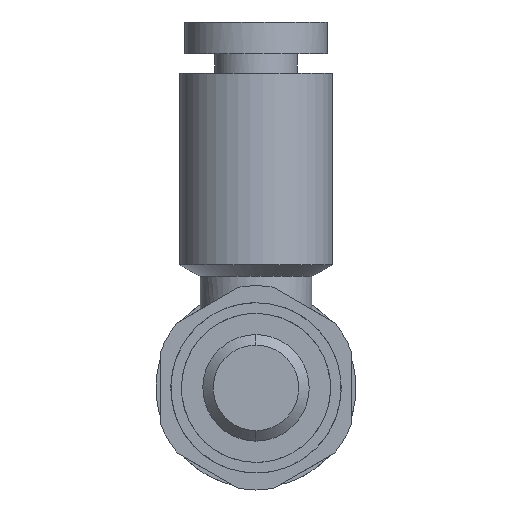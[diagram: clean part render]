
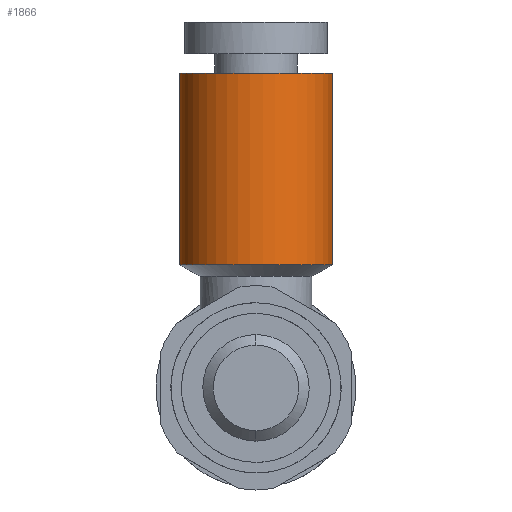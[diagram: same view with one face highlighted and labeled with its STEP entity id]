
A CAD part, front view. The second image highlights one B-rep face of the part: STEP entity #1866.
In plain terms, the highlighted free-form (B-spline) face has degree [1, 3] with [2, 4] control points.
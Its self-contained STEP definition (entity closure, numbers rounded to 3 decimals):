
#99 = ORIENTED_EDGE ( 'NONE', *, *, #775, .T. ) ;
#109 = CARTESIAN_POINT ( 'NONE',  ( -3.6, 6.7, 5.8 ) ) ;
#208 = VERTEX_POINT ( 'NONE', #2135 ) ;
#214 = CARTESIAN_POINT ( 'NONE',  ( -3.6, 13.9, 14.8 ) ) ;
#263 = CARTESIAN_POINT ( 'NONE',  ( 3.6, 6.7, 14.8 ) ) ;
#310 = CARTESIAN_POINT ( 'NONE',  ( -3.6, 13.9, 5.8 ) ) ;
#333 = VERTEX_POINT ( 'NONE', #310 ) ;
#430 = CARTESIAN_POINT ( 'NONE',  ( -3.6, 13.9, 5.8 ) ) ;
#486 = EDGE_CURVE ( 'NONE', #208, #333, #1293, .T. ) ;
#535 = CARTESIAN_POINT ( 'NONE',  ( -3.6, 13.9, 14.8 ) ) ;
#544 = EDGE_CURVE ( 'NONE', #1424, #2267, #1197, .T. ) ;
#688 = CARTESIAN_POINT ( 'NONE',  ( 3.6, 13.9, 5.8 ) ) ;
#775 = EDGE_CURVE ( 'NONE', #208, #1424, #1127, .T. ) ;
#798 = ORIENTED_EDGE ( 'NONE', *, *, #813, .F. ) ;
#813 = EDGE_CURVE ( 'NONE', #333, #2267, #1828, .T. ) ;
#818 = CARTESIAN_POINT ( 'NONE',  ( 3.6, 13.9, 5.8 ) ) ;
#860 = ORIENTED_EDGE ( 'NONE', *, *, #544, .T. ) ;
#869 = CARTESIAN_POINT ( 'NONE',  ( 3.6, 13.9, 14.8 ) ) ;
#881 = CARTESIAN_POINT ( 'NONE',  ( -3.6, 6.7, 14.8 ) ) ;
#888 = ORIENTED_EDGE ( 'NONE', *, *, #486, .F. ) ;
#917 = CARTESIAN_POINT ( 'NONE',  ( 3.6, 13.9, 14.8 ) ) ;
#1127 = B_SPLINE_CURVE_WITH_KNOTS ( 'NONE', 1,
 ( #2071, #869 ),
 .UNSPECIFIED., .F., .F.,
 ( 2, 2 ),
 ( 0., 1. ),
 .UNSPECIFIED. ) ;
#1197 =( BOUNDED_CURVE ( )  B_SPLINE_CURVE ( 3, ( #2472, #263, #881, #1290 ),
 .UNSPECIFIED., .F., .F. ) 
 B_SPLINE_CURVE_WITH_KNOTS ( ( 4, 4 ),
 ( 0.5, 1. ),
 .UNSPECIFIED. ) 
 CURVE ( )  GEOMETRIC_REPRESENTATION_ITEM ( )  RATIONAL_B_SPLINE_CURVE ( ( 1., 0.333, 0.333, 1. ) ) 
 REPRESENTATION_ITEM ( '' )  );
#1254 = EDGE_LOOP ( 'NONE', ( #888, #99, #860, #798 ) ) ;
#1290 = CARTESIAN_POINT ( 'NONE',  ( -3.6, 13.9, 14.8 ) ) ;
#1293 =( BOUNDED_CURVE ( )  B_SPLINE_CURVE ( 3, ( #818, #2424, #2226, #2036 ),
 .UNSPECIFIED., .F., .F. ) 
 B_SPLINE_CURVE_WITH_KNOTS ( ( 4, 4 ),
 ( 0., 1. ),
 .UNSPECIFIED. ) 
 CURVE ( )  GEOMETRIC_REPRESENTATION_ITEM ( )  RATIONAL_B_SPLINE_CURVE ( ( 1., 0.333, 0.333, 1. ) ) 
 REPRESENTATION_ITEM ( '' )  );
#1424 = VERTEX_POINT ( 'NONE', #2400 ) ;
#1828 = B_SPLINE_CURVE_WITH_KNOTS ( 'NONE', 1,
 ( #430, #214 ),
 .UNSPECIFIED., .F., .F.,
 ( 2, 2 ),
 ( 0., 1. ),
 .UNSPECIFIED. ) ;
#1866 = ADVANCED_FACE ( 'NONE', ( #2331 ), #2448, .T. ) ;
#1894 = CARTESIAN_POINT ( 'NONE',  ( 3.6, 6.7, 14.8 ) ) ;
#1906 = CARTESIAN_POINT ( 'NONE',  ( 3.6, 6.7, 5.8 ) ) ;
#2036 = CARTESIAN_POINT ( 'NONE',  ( -3.6, 13.9, 5.8 ) ) ;
#2071 = CARTESIAN_POINT ( 'NONE',  ( 3.6, 13.9, 5.8 ) ) ;
#2135 = CARTESIAN_POINT ( 'NONE',  ( 3.6, 13.9, 5.8 ) ) ;
#2226 = CARTESIAN_POINT ( 'NONE',  ( -3.6, 6.7, 5.8 ) ) ;
#2267 = VERTEX_POINT ( 'NONE', #2312 ) ;
#2279 = CARTESIAN_POINT ( 'NONE',  ( -3.6, 13.9, 5.8 ) ) ;
#2312 = CARTESIAN_POINT ( 'NONE',  ( -3.6, 13.9, 14.8 ) ) ;
#2331 = FACE_OUTER_BOUND ( 'NONE', #1254, .T. ) ;
#2400 = CARTESIAN_POINT ( 'NONE',  ( 3.6, 13.9, 14.8 ) ) ;
#2424 = CARTESIAN_POINT ( 'NONE',  ( 3.6, 6.7, 5.8 ) ) ;
#2448 =( BOUNDED_SURFACE ( )  B_SPLINE_SURFACE ( 1, 3, ( 
 ( #688, #1906, #109, #2279 ),
 ( #917, #1894, #2516, #535 ) ),
 .UNSPECIFIED., .F., .F., .F. ) 
 B_SPLINE_SURFACE_WITH_KNOTS ( ( 2, 2 ),
 ( 4, 4 ),
 ( 0., 1. ),
 ( 0., 1. ),
 .UNSPECIFIED. ) 
 GEOMETRIC_REPRESENTATION_ITEM ( )  RATIONAL_B_SPLINE_SURFACE ( (
 ( 1., 0.333, 0.333, 1.),
 ( 1., 0.333, 0.333, 1.) ) ) 
 REPRESENTATION_ITEM ( '' )  SURFACE ( )  );
#2472 = CARTESIAN_POINT ( 'NONE',  ( 3.6, 13.9, 14.8 ) ) ;
#2516 = CARTESIAN_POINT ( 'NONE',  ( -3.6, 6.7, 14.8 ) ) ;
